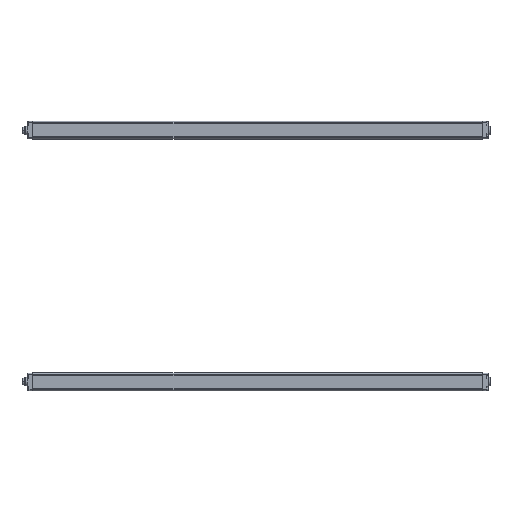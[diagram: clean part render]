
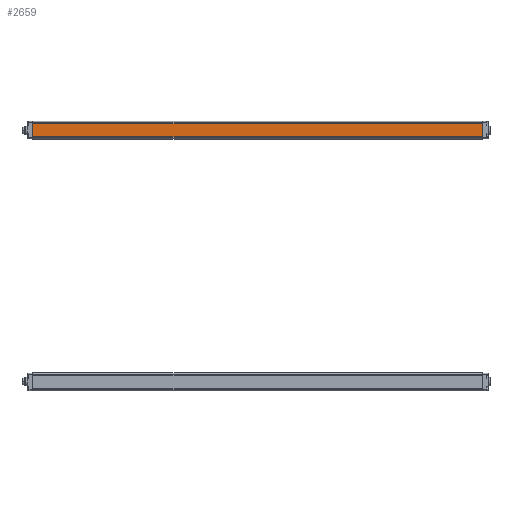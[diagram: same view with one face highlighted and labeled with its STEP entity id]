
A CAD part, front view. The second image highlights one B-rep face of the part: STEP entity #2659.
In plain terms, the highlighted planar face has unit normal (0, -1, 0).
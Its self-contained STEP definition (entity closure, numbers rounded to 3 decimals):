
#154=DIRECTION('',(0.,0.,-1.));
#155=VECTOR('',#154,24.);
#156=CARTESIAN_POINT('',(0.,-15.15,12.));
#157=LINE('',#156,#155);
#412=DIRECTION('',(0.,0.,-1.));
#413=VECTOR('',#412,24.);
#414=CARTESIAN_POINT('',(800.,-15.15,12.));
#415=LINE('',#414,#413);
#880=DIRECTION('',(1.,0.,0.));
#881=VECTOR('',#880,800.);
#882=CARTESIAN_POINT('',(0.,-15.15,12.));
#883=LINE('',#882,#881);
#884=DIRECTION('',(1.,0.,0.));
#885=VECTOR('',#884,800.);
#886=CARTESIAN_POINT('',(0.,-15.15,-12.));
#887=LINE('',#886,#885);
#1298=CARTESIAN_POINT('',(0.,-15.15,12.));
#1299=CARTESIAN_POINT('',(800.,-15.15,12.));
#1300=VERTEX_POINT('',#1298);
#1301=VERTEX_POINT('',#1299);
#1310=CARTESIAN_POINT('',(0.,-15.15,-12.));
#1311=CARTESIAN_POINT('',(800.,-15.15,-12.));
#1312=VERTEX_POINT('',#1310);
#1313=VERTEX_POINT('',#1311);
#2646=CARTESIAN_POINT('',(0.,-15.15,15.65));
#2647=DIRECTION('',(0.,-1.,0.));
#2648=DIRECTION('',(0.,0.,-1.));
#2649=AXIS2_PLACEMENT_3D('',#2646,#2647,#2648);
#2650=PLANE('',#2649);
#2652=ORIENTED_EDGE('',*,*,#2651,.T.);
#2653=ORIENTED_EDGE('',*,*,#1938,.T.);
#2655=ORIENTED_EDGE('',*,*,#2654,.F.);
#2656=ORIENTED_EDGE('',*,*,#1671,.F.);
#2657=EDGE_LOOP('',(#2652,#2653,#2655,#2656));
#2658=FACE_OUTER_BOUND('',#2657,.F.);
#2659=ADVANCED_FACE('',(#2658),#2650,.T.);
#1671=EDGE_CURVE('',#1300,#1312,#157,.T.);
#1938=EDGE_CURVE('',#1301,#1313,#415,.T.);
#2651=EDGE_CURVE('',#1300,#1301,#883,.T.);
#2654=EDGE_CURVE('',#1312,#1313,#887,.T.);
